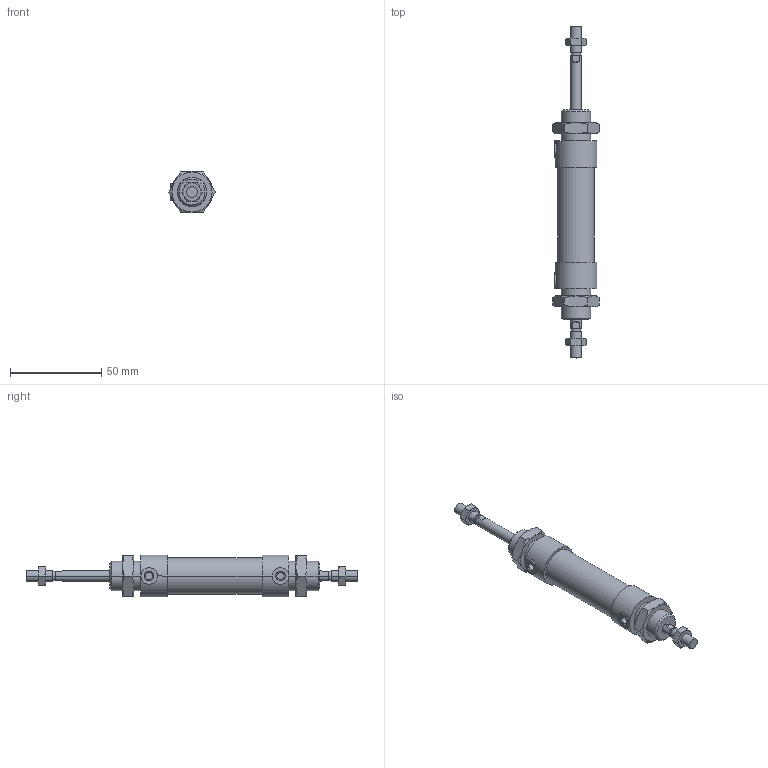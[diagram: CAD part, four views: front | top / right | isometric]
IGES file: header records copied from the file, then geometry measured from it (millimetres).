
Global section: file name: No Iges File Name specified; native system: AutoDesk Inventor R10; preprocessor: AutoDesk Inventor Iges Exporter R10; author: No Author specified; organization: No Organization specified; date: 20060105.143325; units: millimetre
Bounding box: 25.4 x 182 x 23 mm (x, y, z)
Volume: 40405.6 mm3; surface area: 16784.6 mm2
Topology: 6 solids, 6 shells, 184 faces, 394 edges, 230 vertices
Faces by surface type: cone 68, plane 58, cylinder 24, bspline 20, revolution 14
